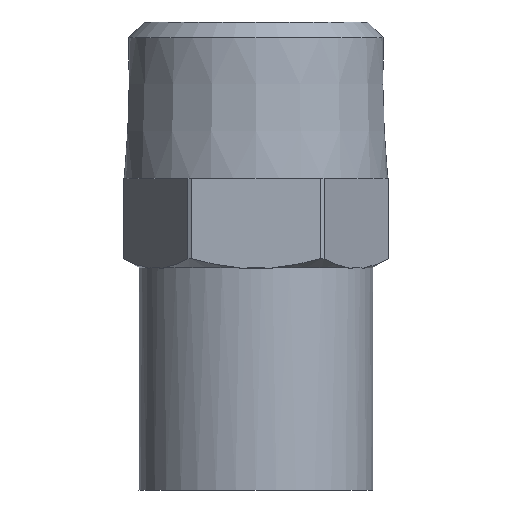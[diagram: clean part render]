
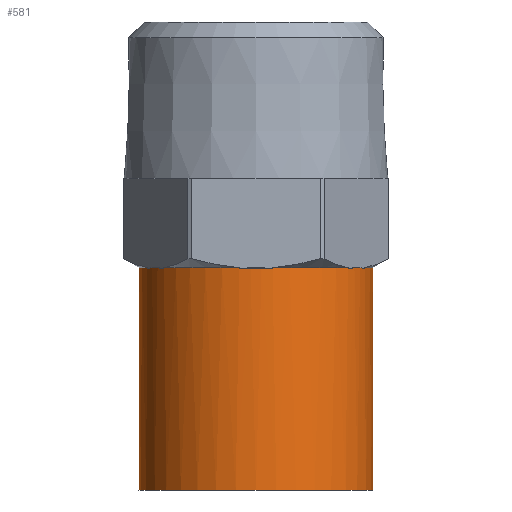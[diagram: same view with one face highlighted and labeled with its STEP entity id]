
A CAD part, front view. The second image highlights one B-rep face of the part: STEP entity #581.
In plain terms, the highlighted cylindrical face has radius 7.5 mm (diameter 15 mm), a full revolution.
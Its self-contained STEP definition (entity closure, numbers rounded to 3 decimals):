
#24=FACE_BOUND('',#134,.T.);
#31=CYLINDRICAL_SURFACE('',#630,7.5);
#44=CIRCLE('',#631,7.5);
#45=CIRCLE('',#632,7.5);
#46=CIRCLE('',#634,7.5);
#47=CIRCLE('',#635,7.5);
#48=CIRCLE('',#636,7.5);
#49=CIRCLE('',#637,7.5);
#50=CIRCLE('',#638,7.5);
#96=FACE_OUTER_BOUND('',#133,.T.);
#133=EDGE_LOOP('',(#438));
#134=EDGE_LOOP('',(#439,#440,#441,#442,#443,#444,#445,#446,#447,#448,#449,
#450,#451,#452,#453,#454,#455,#456,#457,#458,#459,#460,#461,#462));
#166=LINE('',#880,#202);
#167=LINE('',#882,#203);
#172=LINE('',#903,#208);
#173=LINE('',#905,#209);
#178=LINE('',#926,#214);
#179=LINE('',#928,#215);
#184=LINE('',#949,#220);
#185=LINE('',#951,#221);
#190=LINE('',#980,#226);
#191=LINE('',#982,#227);
#192=LINE('',#994,#228);
#193=LINE('',#998,#229);
#202=VECTOR('',#690,0.043);
#203=VECTOR('',#691,0.043);
#208=VECTOR('',#702,0.043);
#209=VECTOR('',#703,0.043);
#214=VECTOR('',#714,0.043);
#215=VECTOR('',#715,0.043);
#220=VECTOR('',#726,0.043);
#221=VECTOR('',#727,0.043);
#226=VECTOR('',#754,0.043);
#227=VECTOR('',#755,0.043);
#228=VECTOR('',#766,0.043);
#229=VECTOR('',#769,0.043);
#234=ELLIPSE('',#606,8.66,7.5);
#235=ELLIPSE('',#609,8.66,7.5);
#236=ELLIPSE('',#612,8.66,7.5);
#237=ELLIPSE('',#615,8.66,7.5);
#238=ELLIPSE('',#618,8.66,7.5);
#239=ELLIPSE('',#633,8.66,7.5);
#240=VERTEX_POINT('',#864);
#241=VERTEX_POINT('',#865);
#246=VERTEX_POINT('',#876);
#247=VERTEX_POINT('',#881);
#248=VERTEX_POINT('',#887);
#249=VERTEX_POINT('',#888);
#254=VERTEX_POINT('',#899);
#255=VERTEX_POINT('',#904);
#256=VERTEX_POINT('',#910);
#257=VERTEX_POINT('',#911);
#262=VERTEX_POINT('',#922);
#263=VERTEX_POINT('',#927);
#264=VERTEX_POINT('',#933);
#265=VERTEX_POINT('',#934);
#270=VERTEX_POINT('',#945);
#271=VERTEX_POINT('',#950);
#272=VERTEX_POINT('',#956);
#273=VERTEX_POINT('',#957);
#278=VERTEX_POINT('',#976);
#279=VERTEX_POINT('',#981);
#280=VERTEX_POINT('',#989);
#281=VERTEX_POINT('',#991);
#282=VERTEX_POINT('',#993);
#283=VERTEX_POINT('',#995);
#284=VERTEX_POINT('',#997);
#294=EDGE_CURVE('',#240,#241,#234,.T.);
#300=EDGE_CURVE('',#241,#246,#166,.T.);
#301=EDGE_CURVE('',#247,#240,#167,.T.);
#303=EDGE_CURVE('',#248,#249,#235,.T.);
#309=EDGE_CURVE('',#249,#254,#172,.T.);
#310=EDGE_CURVE('',#255,#248,#173,.T.);
#312=EDGE_CURVE('',#256,#257,#236,.T.);
#318=EDGE_CURVE('',#257,#262,#178,.T.);
#319=EDGE_CURVE('',#263,#256,#179,.T.);
#321=EDGE_CURVE('',#264,#265,#237,.T.);
#327=EDGE_CURVE('',#265,#270,#184,.T.);
#328=EDGE_CURVE('',#271,#264,#185,.T.);
#330=EDGE_CURVE('',#272,#273,#238,.T.);
#340=EDGE_CURVE('',#273,#278,#190,.T.);
#341=EDGE_CURVE('',#279,#272,#191,.T.);
#344=EDGE_CURVE('',#280,#280,#44,.T.);
#345=EDGE_CURVE('',#246,#281,#45,.T.);
#346=EDGE_CURVE('',#281,#282,#192,.T.);
#347=EDGE_CURVE('',#282,#283,#239,.T.);
#348=EDGE_CURVE('',#283,#284,#193,.T.);
#349=EDGE_CURVE('',#284,#279,#46,.T.);
#350=EDGE_CURVE('',#278,#271,#47,.T.);
#351=EDGE_CURVE('',#270,#263,#48,.T.);
#352=EDGE_CURVE('',#262,#255,#49,.T.);
#353=EDGE_CURVE('',#254,#247,#50,.T.);
#438=ORIENTED_EDGE('',*,*,#344,.F.);
#439=ORIENTED_EDGE('',*,*,#301,.T.);
#440=ORIENTED_EDGE('',*,*,#294,.T.);
#441=ORIENTED_EDGE('',*,*,#300,.T.);
#442=ORIENTED_EDGE('',*,*,#345,.T.);
#443=ORIENTED_EDGE('',*,*,#346,.T.);
#444=ORIENTED_EDGE('',*,*,#347,.T.);
#445=ORIENTED_EDGE('',*,*,#348,.T.);
#446=ORIENTED_EDGE('',*,*,#349,.T.);
#447=ORIENTED_EDGE('',*,*,#341,.T.);
#448=ORIENTED_EDGE('',*,*,#330,.T.);
#449=ORIENTED_EDGE('',*,*,#340,.T.);
#450=ORIENTED_EDGE('',*,*,#350,.T.);
#451=ORIENTED_EDGE('',*,*,#328,.T.);
#452=ORIENTED_EDGE('',*,*,#321,.T.);
#453=ORIENTED_EDGE('',*,*,#327,.T.);
#454=ORIENTED_EDGE('',*,*,#351,.T.);
#455=ORIENTED_EDGE('',*,*,#319,.T.);
#456=ORIENTED_EDGE('',*,*,#312,.T.);
#457=ORIENTED_EDGE('',*,*,#318,.T.);
#458=ORIENTED_EDGE('',*,*,#352,.T.);
#459=ORIENTED_EDGE('',*,*,#310,.T.);
#460=ORIENTED_EDGE('',*,*,#303,.T.);
#461=ORIENTED_EDGE('',*,*,#309,.T.);
#462=ORIENTED_EDGE('',*,*,#353,.T.);
#581=ADVANCED_FACE('',(#96,#24),#31,.T.);
#606=AXIS2_PLACEMENT_3D('',#866,#682,#683);
#609=AXIS2_PLACEMENT_3D('',#889,#694,#695);
#612=AXIS2_PLACEMENT_3D('',#912,#706,#707);
#615=AXIS2_PLACEMENT_3D('',#935,#718,#719);
#618=AXIS2_PLACEMENT_3D('',#958,#730,#731);
#630=AXIS2_PLACEMENT_3D('',#988,#760,#761);
#631=AXIS2_PLACEMENT_3D('',#990,#762,#763);
#632=AXIS2_PLACEMENT_3D('',#992,#764,#765);
#633=AXIS2_PLACEMENT_3D('',#996,#767,#768);
#634=AXIS2_PLACEMENT_3D('',#999,#770,#771);
#635=AXIS2_PLACEMENT_3D('',#1000,#772,#773);
#636=AXIS2_PLACEMENT_3D('',#1001,#774,#775);
#637=AXIS2_PLACEMENT_3D('',#1002,#776,#777);
#638=AXIS2_PLACEMENT_3D('',#1003,#778,#779);
#682=DIRECTION('center_axis',(-0.433,0.25,-0.866));
#683=DIRECTION('ref_axis',(-0.75,0.433,0.5));
#690=DIRECTION('',(0.,0.,1.));
#691=DIRECTION('',(0.,0.,-1.));
#694=DIRECTION('center_axis',(-0.433,-0.25,-0.866));
#695=DIRECTION('ref_axis',(0.75,0.433,-0.5));
#702=DIRECTION('',(0.,0.,1.));
#703=DIRECTION('',(0.,0.,-1.));
#706=DIRECTION('center_axis',(0.,-0.5,-0.866));
#707=DIRECTION('ref_axis',(0.,0.866,-0.5));
#714=DIRECTION('',(0.,0.,1.));
#715=DIRECTION('',(0.,0.,-1.));
#718=DIRECTION('center_axis',(0.433,-0.25,-0.866));
#719=DIRECTION('ref_axis',(-0.75,0.433,-0.5));
#726=DIRECTION('',(0.,0.,1.));
#727=DIRECTION('',(0.,0.,-1.));
#730=DIRECTION('center_axis',(0.433,0.25,-0.866));
#731=DIRECTION('ref_axis',(0.75,0.433,0.5));
#754=DIRECTION('',(0.,0.,1.));
#755=DIRECTION('',(0.,0.,-1.));
#760=DIRECTION('center_axis',(0.,0.,-1.));
#761=DIRECTION('ref_axis',(0.,1.,0.));
#762=DIRECTION('center_axis',(0.,0.,-1.));
#763=DIRECTION('ref_axis',(1.,0.,0.));
#764=DIRECTION('center_axis',(0.,0.,-1.));
#765=DIRECTION('ref_axis',(1.,0.,0.));
#766=DIRECTION('',(0.,0.,-1.));
#767=DIRECTION('center_axis',(0.,0.5,-0.866));
#768=DIRECTION('ref_axis',(0.,0.866,0.5));
#769=DIRECTION('',(0.,0.,1.));
#770=DIRECTION('center_axis',(0.,0.,-1.));
#771=DIRECTION('ref_axis',(1.,0.,0.));
#772=DIRECTION('center_axis',(0.,0.,-1.));
#773=DIRECTION('ref_axis',(1.,0.,0.));
#774=DIRECTION('center_axis',(0.,0.,-1.));
#775=DIRECTION('ref_axis',(1.,0.,0.));
#776=DIRECTION('center_axis',(0.,0.,-1.));
#777=DIRECTION('ref_axis',(1.,0.,0.));
#778=DIRECTION('center_axis',(0.,0.,-1.));
#779=DIRECTION('ref_axis',(1.,0.,0.));
#864=CARTESIAN_POINT('',(-6.959,2.796,-0.793));
#865=CARTESIAN_POINT('',(-5.901,4.629,-0.793));
#866=CARTESIAN_POINT('Origin',(0.,0.,-5.08));
#876=CARTESIAN_POINT('',(-5.901,4.629,-0.75));
#880=CARTESIAN_POINT('',(-5.901,4.629,-7.875));
#881=CARTESIAN_POINT('',(-6.959,2.796,-0.75));
#882=CARTESIAN_POINT('',(-6.959,2.796,-7.875));
#887=CARTESIAN_POINT('',(-5.901,-4.629,-0.793));
#888=CARTESIAN_POINT('',(-6.959,-2.796,-0.793));
#889=CARTESIAN_POINT('Origin',(0.,0.,-5.08));
#899=CARTESIAN_POINT('',(-6.959,-2.796,-0.75));
#903=CARTESIAN_POINT('',(-6.959,-2.796,-7.875));
#904=CARTESIAN_POINT('',(-5.901,-4.629,-0.75));
#905=CARTESIAN_POINT('',(-5.901,-4.629,-7.875));
#910=CARTESIAN_POINT('',(1.058,-7.425,-0.793));
#911=CARTESIAN_POINT('',(-1.058,-7.425,-0.793));
#912=CARTESIAN_POINT('Origin',(0.,0.,-5.08));
#922=CARTESIAN_POINT('',(-1.058,-7.425,-0.75));
#926=CARTESIAN_POINT('',(-1.058,-7.425,-7.875));
#927=CARTESIAN_POINT('',(1.058,-7.425,-0.75));
#928=CARTESIAN_POINT('',(1.058,-7.425,-7.875));
#933=CARTESIAN_POINT('',(6.959,-2.796,-0.793));
#934=CARTESIAN_POINT('',(5.901,-4.629,-0.793));
#935=CARTESIAN_POINT('Origin',(0.,0.,-5.08));
#945=CARTESIAN_POINT('',(5.901,-4.629,-0.75));
#949=CARTESIAN_POINT('',(5.901,-4.629,-7.875));
#950=CARTESIAN_POINT('',(6.959,-2.796,-0.75));
#951=CARTESIAN_POINT('',(6.959,-2.796,-7.875));
#956=CARTESIAN_POINT('',(5.901,4.629,-0.793));
#957=CARTESIAN_POINT('',(6.959,2.796,-0.793));
#958=CARTESIAN_POINT('Origin',(0.,0.,-5.08));
#976=CARTESIAN_POINT('',(6.959,2.796,-0.75));
#980=CARTESIAN_POINT('',(6.959,2.796,-7.875));
#981=CARTESIAN_POINT('',(5.901,4.629,-0.75));
#982=CARTESIAN_POINT('',(5.901,4.629,-7.875));
#988=CARTESIAN_POINT('Origin',(0.,0.,-7.875));
#989=CARTESIAN_POINT('',(0.,7.5,-15.));
#990=CARTESIAN_POINT('Origin',(0.,0.,-15.));
#991=CARTESIAN_POINT('',(-1.058,7.425,-0.75));
#992=CARTESIAN_POINT('Origin',(0.,0.,-0.75));
#993=CARTESIAN_POINT('',(-1.058,7.425,-0.793));
#994=CARTESIAN_POINT('',(-1.058,7.425,-7.875));
#995=CARTESIAN_POINT('',(1.058,7.425,-0.793));
#996=CARTESIAN_POINT('Origin',(0.,0.,-5.08));
#997=CARTESIAN_POINT('',(1.058,7.425,-0.75));
#998=CARTESIAN_POINT('',(1.058,7.425,-7.875));
#999=CARTESIAN_POINT('Origin',(0.,0.,-0.75));
#1000=CARTESIAN_POINT('Origin',(0.,0.,-0.75));
#1001=CARTESIAN_POINT('Origin',(0.,0.,-0.75));
#1002=CARTESIAN_POINT('Origin',(0.,0.,-0.75));
#1003=CARTESIAN_POINT('Origin',(0.,0.,-0.75));
